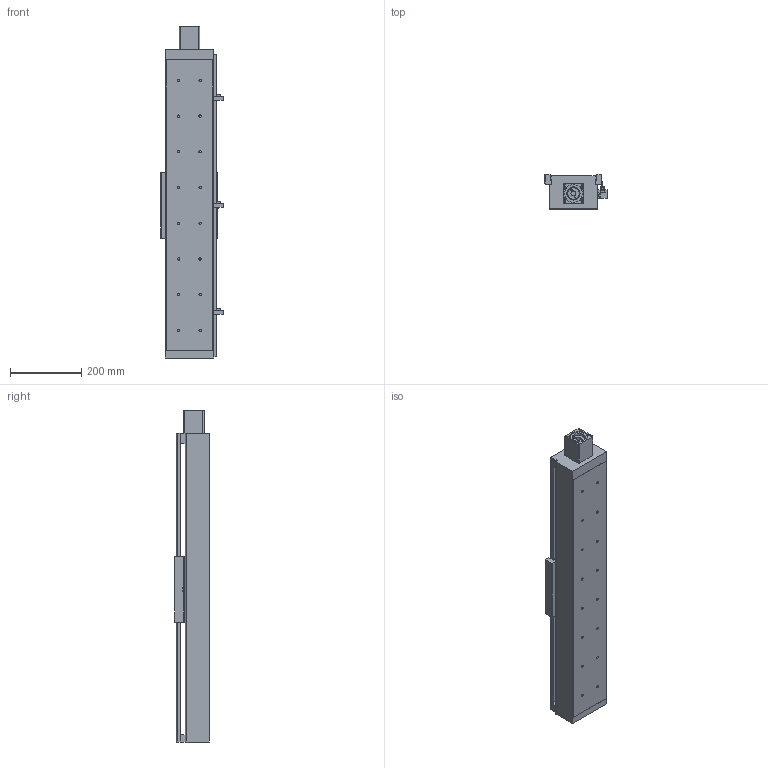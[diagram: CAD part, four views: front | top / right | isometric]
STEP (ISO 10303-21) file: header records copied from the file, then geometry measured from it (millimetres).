
FILE_DESCRIPTION((''),'2;1');
FILE_NAME('E:\libraries\UIA actuator library 2009\standard actuator\UIA136 ball screw 25\UIA136R15NDC-_ _ _-R25_ _, stp file 27Apr16\UIA136R15NDC-600-R25_ _-M60-P13-C10-S.stp','2016-04-28T16:42:46',('h029'),(''),'Autodesk Inventor 11','Autodesk Inventor 11','');
FILE_SCHEMA(('AUTOMOTIVE_DESIGN { 1 0 10303 214 1 1 1 1 }'));
Length unit declared in the file: millimetre
Products named in the file (10): UIA136R15NDC-600; UIA136R15NDC-body; motor mount F60; SOH-32C; SOH-32C-3; SOH-32C-1; SOH-32C-2; Carriage; Sensor Switch; sensor rail
Assembly tree (9 placements, depth 3):
  UIA136R15NDC-600
    UIA136R15NDC-body
    motor mount F60
    SOH-32C
      SOH-32C-3
      SOH-32C-1
      SOH-32C-2
    Carriage
    Sensor Switch
    sensor rail
Bounding box: 174.5 x 98 x 930 mm (x, y, z)
Volume: 3692989.5 mm3; surface area: 991531.4 mm2
Topology: 8 solids, 8 shells, 504 faces, 1331 edges, 870 vertices
Faces by surface type: plane 322, bspline 134, cylinder 44, cone 4
Full cylindrical faces by diameter (mm): 2.459 x2, 3.242 x2, 4.5 x2, 7 x4, 7.5 x2, 14 x3, 17 x1, 32 x3, 37 x1, 50.3 x1, 50.5 x1
Entity records: 16444 total; most frequent: CARTESIAN_POINT 4700, ORIENTED_EDGE 2272, DIRECTION 2226, EDGE_CURVE 1136, VECTOR 808, LINE 808, VERTEX_POINT 806, EDGE_LOOP 748
